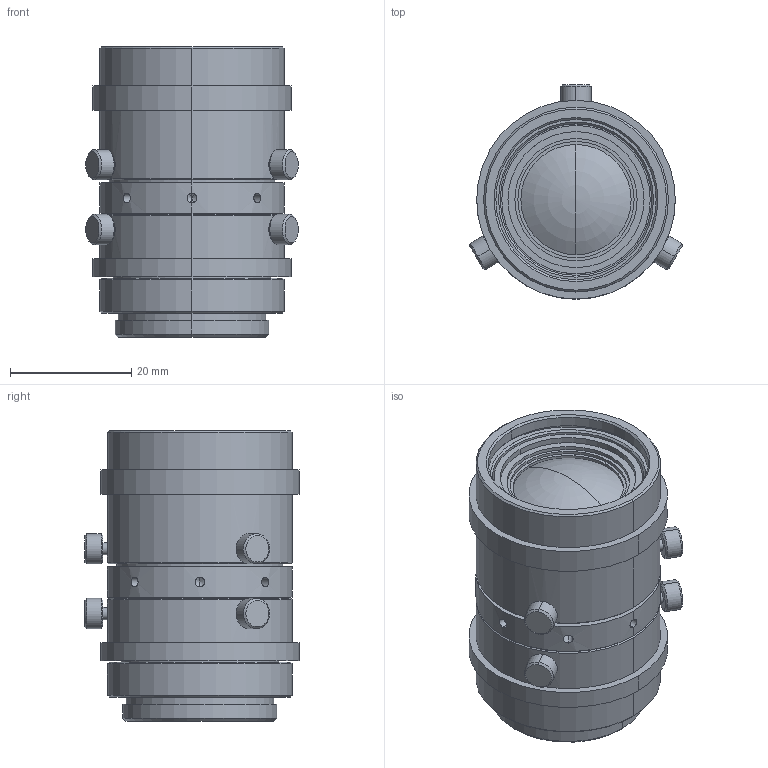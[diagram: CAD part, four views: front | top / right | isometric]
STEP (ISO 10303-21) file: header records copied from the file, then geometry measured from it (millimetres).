
FILE_DESCRIPTION (( 'STEP AP203' ), '1' );
FILE_NAME ('TF4XA-1_outline.STEP', '2018-05-17T11:06:52', ( '富士フイルム株式会社' ), ( '富士フイルム株式会社' ), 'SwSTEP 2.0', 'SolidWorks 2017', '' );
FILE_SCHEMA (( 'CONFIG_CONTROL_DESIGN' ));
Length unit declared in the file: millimetre
Products named in the file (1): TF4XA-1_outline
Bounding box: 35.11 x 35.4 x 48 mm (x, y, z)
Volume: 32354 mm3; surface area: 10784.6 mm2
Topology: 1 solids, 1 shells, 192 faces, 406 edges, 236 vertices
Faces by surface type: cylinder 90, cone 62, plane 36, torus 4
Entity records: 5437 total; most frequent: CARTESIAN_POINT 1231, DIRECTION 946, ORIENTED_EDGE 772, AXIS2_PLACEMENT_3D 395, EDGE_CURVE 386, VERTEX_POINT 236, EDGE_LOOP 232, CIRCLE 202
